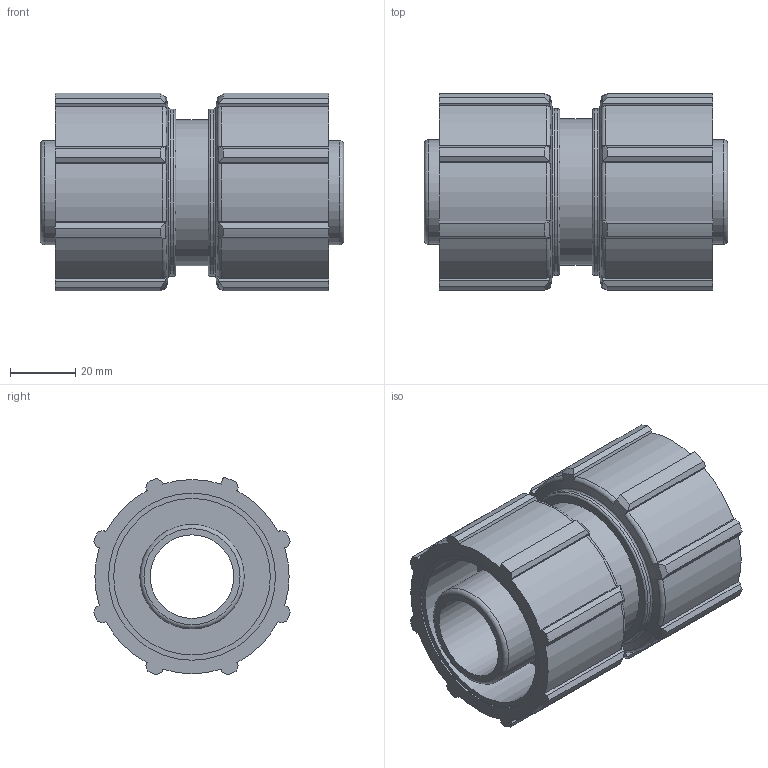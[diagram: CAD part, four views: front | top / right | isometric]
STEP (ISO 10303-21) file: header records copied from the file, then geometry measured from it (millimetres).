
FILE_DESCRIPTION(/* description */ ('PLASSON MODULAR ADAPTOR 32'),/* implementation_level */ '2;1');
FILE_NAME(/* name */ 'C:\Dropbox\KIMPROJECTS-Inventor\99-16-3568-Processing\Mechanical Fittings\07940\079400032__0794060320A.ipt.stp',/* time_stamp */ '2018-07-31T14:20:40+03:00',/* author */ ('KIM'),/* organization */ (''),/* preprocessor_version */ 'ST-DEVELOPER v15.6',/* originating_system */ 'Autodesk Inventor 2015',/* authorisation */ '');
FILE_SCHEMA (('AUTOMOTIVE_DESIGN { 1 0 10303 214 3 1 1 }'));
Length unit declared in the file: millimetre
Products named in the file (1): 079400032__0794060320A
Bounding box: 93 x 60.22 x 60.63 mm (x, y, z)
Volume: 135165.8 mm3; surface area: 43629.4 mm2
Topology: 1 solids, 1 shells, 154 faces, 424 edges, 280 vertices
Faces by surface type: plane 72, cylinder 42, torus 22, cone 18
Full cylindrical faces by diameter (mm): 25.6 x1, 32 x2, 44.8 x1, 48 x2, 51.2 x4
Entity records: 4850 total; most frequent: CARTESIAN_POINT 983, ORIENTED_EDGE 808, DIRECTION 808, EDGE_CURVE 404, AXIS2_PLACEMENT_3D 309, VERTEX_POINT 278, LINE 190, VECTOR 190
